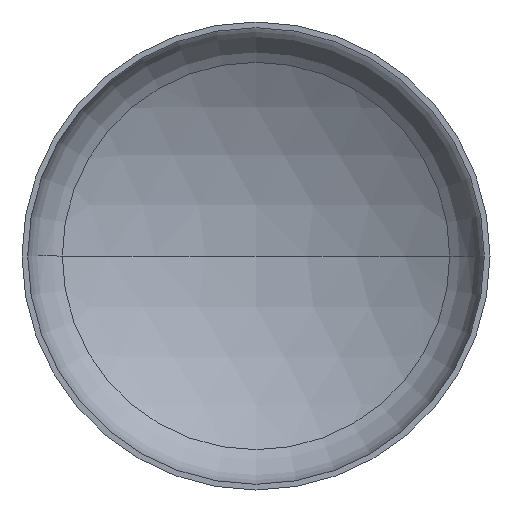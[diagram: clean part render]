
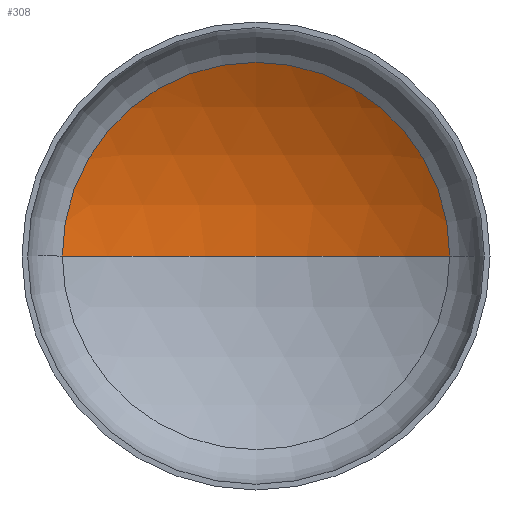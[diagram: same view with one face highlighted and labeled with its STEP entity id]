
A CAD part, front view. The second image highlights one B-rep face of the part: STEP entity #308.
In plain terms, the highlighted spherical face has radius 2560 mm.
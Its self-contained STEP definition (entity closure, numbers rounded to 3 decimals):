
#11 = EDGE_LOOP ( 'NONE', ( #140, #123, #72 ) ) ;
#20 = AXIS2_PLACEMENT_3D ( 'NONE', #105, #402, #116 ) ;
#29 = VERTEX_POINT ( 'NONE', #378 ) ;
#31 = CARTESIAN_POINT ( 'NONE',  ( 1324.522, 539.317, 0. ) ) ;
#33 = AXIS2_PLACEMENT_3D ( 'NONE', #186, #192, #198 ) ;
#34 = AXIS2_PLACEMENT_3D ( 'NONE', #144, #214, #194 ) ;
#46 = AXIS2_PLACEMENT_3D ( 'NONE', #217, #211, #215 ) ;
#72 = ORIENTED_EDGE ( 'NONE', *, *, #82, .T. ) ;
#82 = EDGE_CURVE ( 'NONE', #137, #29, #310, .T. ) ;
#92 = VERTEX_POINT ( 'NONE', #190 ) ;
#105 = CARTESIAN_POINT ( 'NONE',  ( 0., -1651.4, 0. ) ) ;
#108 = EDGE_CURVE ( 'NONE', #92, #137, #300, .T. ) ;
#116 = DIRECTION ( 'NONE',  ( -1., 0., 0. ) ) ;
#123 = ORIENTED_EDGE ( 'NONE', *, *, #108, .T. ) ;
#137 = VERTEX_POINT ( 'NONE', #31 ) ;
#140 = ORIENTED_EDGE ( 'NONE', *, *, #148, .F. ) ;
#144 = CARTESIAN_POINT ( 'NONE',  ( 0., -1651.4, 0. ) ) ;
#148 = EDGE_CURVE ( 'NONE', #92, #29, #184, .T. ) ;
#184 = CIRCLE ( 'NONE', #33, 2560. ) ;
#186 = CARTESIAN_POINT ( 'NONE',  ( 0., -1651.4, 0. ) ) ;
#190 = CARTESIAN_POINT ( 'NONE',  ( 0., 908.6, 0. ) ) ;
#192 = DIRECTION ( 'NONE',  ( 0., 0., 1. ) ) ;
#194 = DIRECTION ( 'NONE',  ( -1., 0., 0. ) ) ;
#198 = DIRECTION ( 'NONE',  ( 1., 0., 0. ) ) ;
#211 = DIRECTION ( 'NONE',  ( 0., -1., 0. ) ) ;
#214 = DIRECTION ( 'NONE',  ( 0., 0., -1. ) ) ;
#215 = DIRECTION ( 'NONE',  ( 1., 0., 0. ) ) ;
#217 = CARTESIAN_POINT ( 'NONE',  ( 0., 539.317, 0. ) ) ;
#225 = SPHERICAL_SURFACE ( 'NONE', #20, 2560. ) ;
#280 = FACE_OUTER_BOUND ( 'NONE', #11, .T. ) ;
#300 = CIRCLE ( 'NONE', #34, 2560. ) ;
#308 = ADVANCED_FACE ( 'NONE', ( #280 ), #225, .F. ) ;
#310 = CIRCLE ( 'NONE', #46, 1324.522 ) ;
#378 = CARTESIAN_POINT ( 'NONE',  ( -1324.522, 539.317, 0. ) ) ;
#402 = DIRECTION ( 'NONE',  ( 0., 0., -1. ) ) ;
